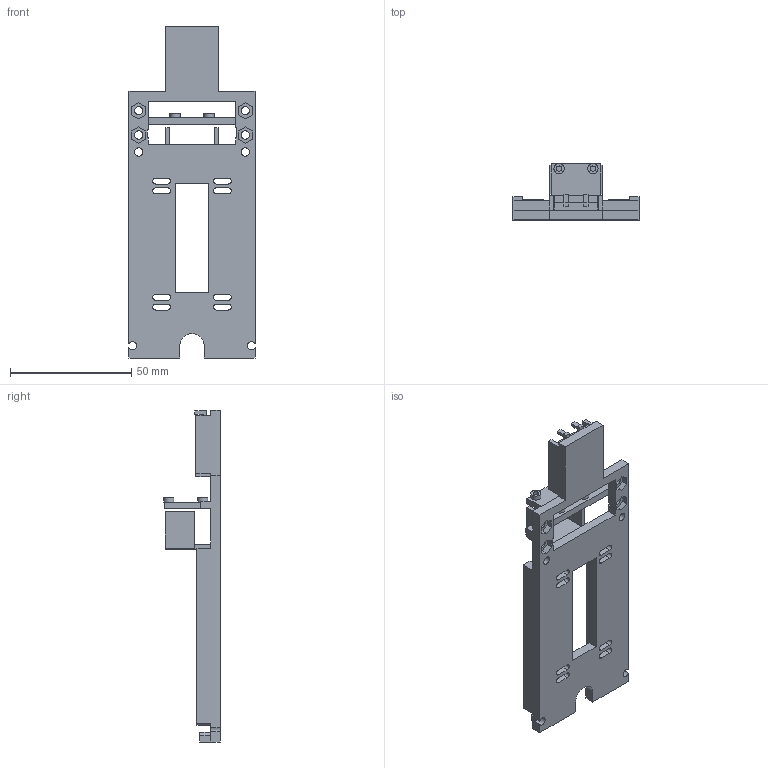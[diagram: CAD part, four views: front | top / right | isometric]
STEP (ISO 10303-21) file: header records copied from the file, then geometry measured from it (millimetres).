
FILE_DESCRIPTION(('FreeCAD Model'),'2;1');
FILE_NAME('Open CASCADE Shape Model','2026-09-19T21:01:32',('FreeCAD'),( 'FreeCAD'),'Open CASCADE STEP processor 7.8','FreeCAD','Unknown');
FILE_SCHEMA(('AUTOMOTIVE_DESIGN { 1 0 10303 214 1 1 1 1 }'));
Length unit declared in the file: millimetre
Products named in the file (1): Open CASCADE STEP translator 7.8 4
Bounding box: 52 x 23.3 x 137 mm (x, y, z)
Volume: 29374.3 mm3; surface area: 20695.1 mm2
Topology: 1 solids, 1 shells, 228 faces, 662 edges, 446 vertices
Faces by surface type: plane 185, cylinder 43
Full cylindrical faces by diameter (mm): 2.2 x4, 3.4 x8, 4.2 x4
Entity records: 7594 total; most frequent: CARTESIAN_POINT 1337, ORIENTED_EDGE 1324, DIRECTION 1234, EDGE_CURVE 662, LINE 548, VECTOR 548, VERTEX_POINT 446, AXIS2_PLACEMENT_3D 343
